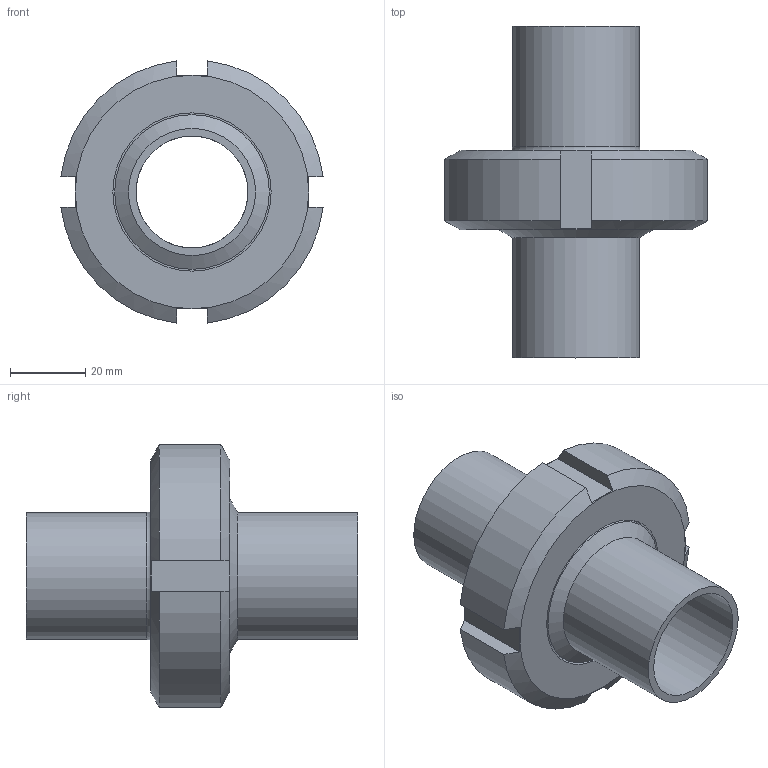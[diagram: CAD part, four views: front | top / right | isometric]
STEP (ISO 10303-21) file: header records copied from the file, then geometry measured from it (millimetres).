
FILE_DESCRIPTION(/* description */ ('Aseptik_Rohrverbindung_DIN 11864-1-A_33,7x2_L88'),/* implementation_level */ '2;1');
FILE_NAME(/* name */ 'L:\Normteile\N0024 - Rohrverbindungen\N0024_002 - DIN11864\N0024_002_001 - geschraubt\N0024_002_001\Step Marketing\DIN11864-1-A_33,7x2_L88.stp',/* time_stamp */ '2021-08-31T10:24:39+02:00',/* author */ ('Csasse'),/* organization */ ('Dockweiler AG'),/* preprocessor_version */ 'ST-DEVELOPER v18',/* originating_system */ 'Autodesk Inventor 2020',/* authorisation */ '');
FILE_SCHEMA (('AUTOMOTIVE_DESIGN { 1 0 10303 214 3 1 1 }'));
Length unit declared in the file: millimetre
Products named in the file (5): N0024_002_001_43; N0003_007_001_15; N0003_007_002_15; N0005_005_002_001_16; N0009_009_15
Assembly tree (4 placements, depth 2):
  N0024_002_001_43
    N0003_007_001_15
    N0003_007_002_15
    N0005_005_002_001_16
    N0009_009_15
Bounding box: 69.54 x 88 x 69.54 mm (x, y, z)
Volume: 77592.7 mm3; surface area: 41041.1 mm2
Topology: 4 solids, 4 shells, 60 faces, 176 edges, 128 vertices
Faces by surface type: plane 24, cylinder 14, torus 12, cone 10
Full cylindrical faces by diameter (mm): 29.7 x2, 33.7 x2, 41 x1, 42 x1, 48.9 x1, 49 x1, 53.767 x1, 58.423 x1
Entity records: 2344 total; most frequent: CARTESIAN_POINT 425, DIRECTION 402, ORIENTED_EDGE 352, AXIS2_PLACEMENT_3D 183, EDGE_CURVE 176, VERTEX_POINT 128, CIRCLE 114, EDGE_LOOP 72
